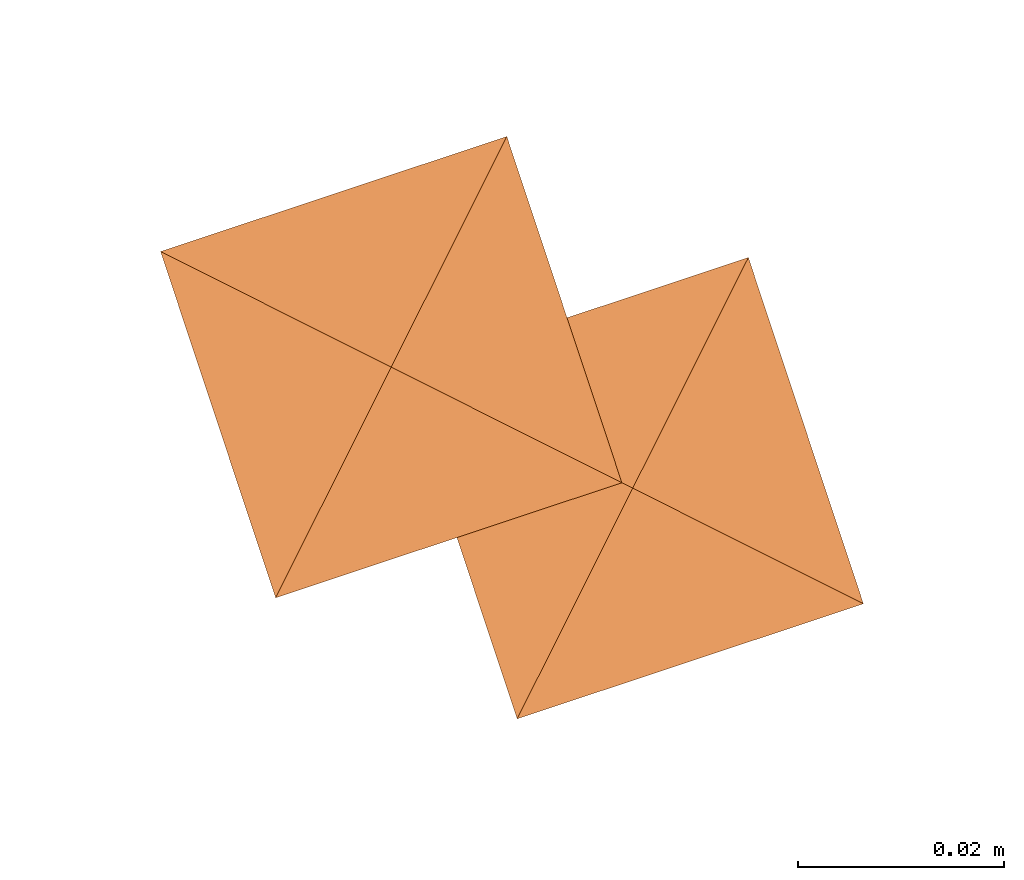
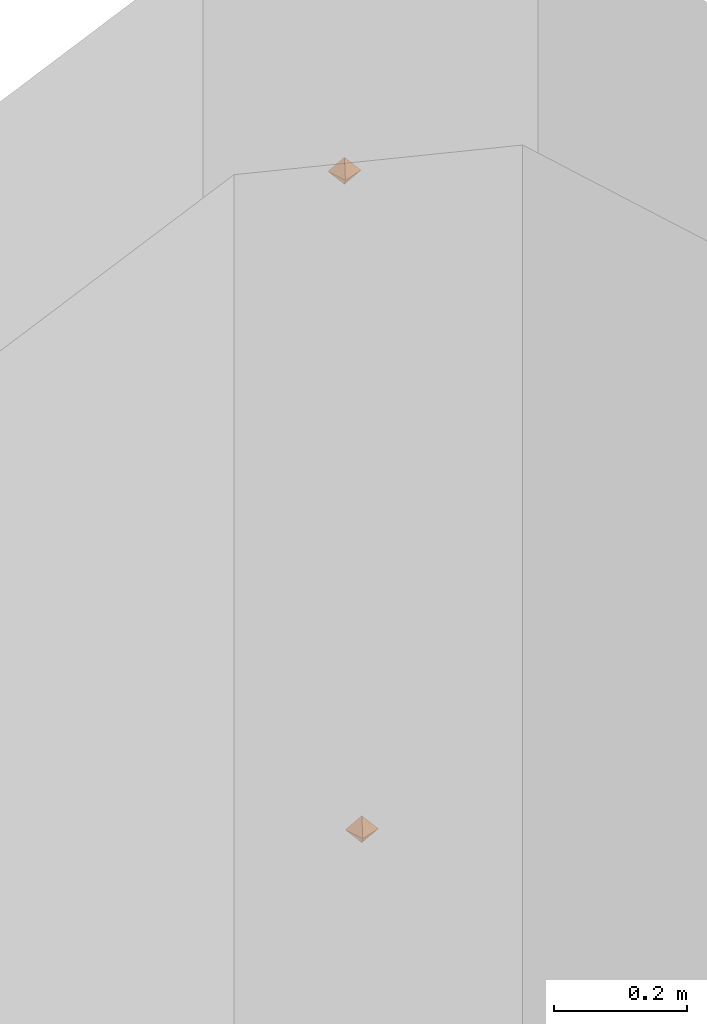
# One storey, part 206 of 206: 2 proxies.
"""IFC2X3 building model written with IfcOpenShell, lengths in metres."""

from ifc_helpers import new_model, si_unit, derived_unit, direction, frame, origin, place, context, subcontext, project, spatial, faceted_brep, type_object, element, save


model = new_model("IFC2X3")

# Units and contexts
model_context = context("Model", 3, precision=5.2338327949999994e-05, world=origin(), true_north=direction((0.0, 1.0)))
body_context = subcontext(model_context, "Body", "Model", "MODEL_VIEW")
ifc_project = project(units=[si_unit("LENGTHUNIT", "METRE"), si_unit("AREAUNIT", "SQUARE_METRE"), si_unit("VOLUMEUNIT", "CUBIC_METRE"), si_unit("MASSUNIT", "GRAM", prefix="KILO"), si_unit("PLANEANGLEUNIT", "RADIAN"), derived_unit("THERMALTRANSMITTANCEUNIT", [(si_unit("MASSUNIT", "GRAM", prefix="KILO"), 1), (si_unit("THERMODYNAMICTEMPERATUREUNIT", "KELVIN"), -1), (si_unit("TIMEUNIT", "SECOND"), -3)])], contexts=[model_context])

# Site, building, storey
site_placement = place(None, frame((0.0, 0.0, 0.0), z_axis=(0.0, 0.0, 1.0), x_axis=(0.8939966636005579, -0.4480736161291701, 0.0)))
site = spatial("IfcSite", under=ifc_project, at=site_placement, Name="Default", CompositionType="ELEMENT")
building_placement = place(site_placement, origin())
building = spatial("IfcBuilding", under=site, at=building_placement, CompositionType="ELEMENT")
storey_placement = place(building_placement, origin())
storey = spatial("IfcBuildingStorey", under=building, at=storey_placement, Name="Erdgeschoss", CompositionType="ELEMENT", Elevation=0.0)

# Proxies
building_element_proxy_type = type_object("IfcBuildingElementProxyType", Name="DirectShape:Gebäudeautomation", PredefinedType="NOTDEFINED")
proxy_1_placement = place(storey_placement, origin())
element("IfcBuildingElementProxy", 1, at=proxy_1_placement, inside=storey, type_object=building_element_proxy_type, Name="DirectShape:Wärmespeicher Pufferfühler unten mitte", context=body_context, shape_type="Brep", body=[
    faceted_brep([(34.97171187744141, 12.296608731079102, 2.3286770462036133), (34.94671340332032, 12.296608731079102, 2.3536769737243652), (34.97171187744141, 12.321608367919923, 2.3536769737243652), (34.97171187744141, 12.271609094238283, 2.3536769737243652), (34.99671267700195, 12.296608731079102, 2.3536769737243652), (34.97171187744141, 12.296608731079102, 2.378676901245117)], [[[0, 1, 2]], [[0, 3, 1]], [[0, 4, 3]], [[0, 2, 4]], [[5, 2, 1]], [[5, 1, 3]], [[5, 3, 4]], [[5, 4, 2]]]),
])
proxy_2_placement = place(storey_placement, origin())
element("IfcBuildingElementProxy", 2, at=proxy_2_placement, inside=storey, type_object=building_element_proxy_type, Name="DirectShape:Wärmespeicher Pufferfühler unten", context=body_context, shape_type="Brep", body=[
    faceted_brep([(34.99788934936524, 12.296608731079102, 1.1211825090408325), (34.97289087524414, 12.296608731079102, 1.1461825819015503), (34.99788934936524, 12.321608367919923, 1.1461825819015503), (34.99788934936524, 12.271609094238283, 1.1461825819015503), (35.02289014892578, 12.296608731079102, 1.1461825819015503), (34.99788934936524, 12.296608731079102, 1.1711825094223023)], [[[0, 1, 2]], [[0, 3, 1]], [[0, 4, 3]], [[0, 2, 4]], [[5, 2, 1]], [[5, 1, 3]], [[5, 3, 4]], [[5, 4, 2]]]),
])

save(model, "model.ifc")
